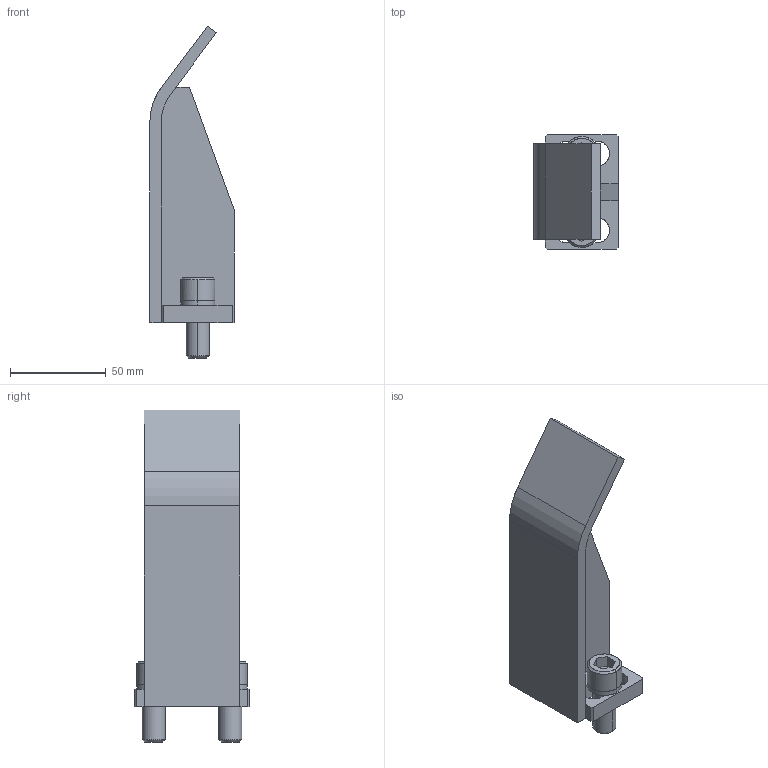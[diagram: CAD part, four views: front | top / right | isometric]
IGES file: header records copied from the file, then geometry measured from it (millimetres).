
Global section: file name: E:\UnigraphicsGraphicData\MISUMI_PRESS-PARTS\IGES\3d_nstfb-115-m12_01636_r00.igs; native system: NX V5.0; preprocessor: UGS NX IGES V5.0; author: MISUMI; date: 20110105.162131; units: millimetre
Bounding box: 44 x 60 x 173.5 mm (x, y, z)
Surface area: 36914.8 mm2 (no closed solid volume)
Topology: 0 solids, 0 shells, 83 faces, 516 edges, 516 vertices
Faces by surface type: bspline 83
